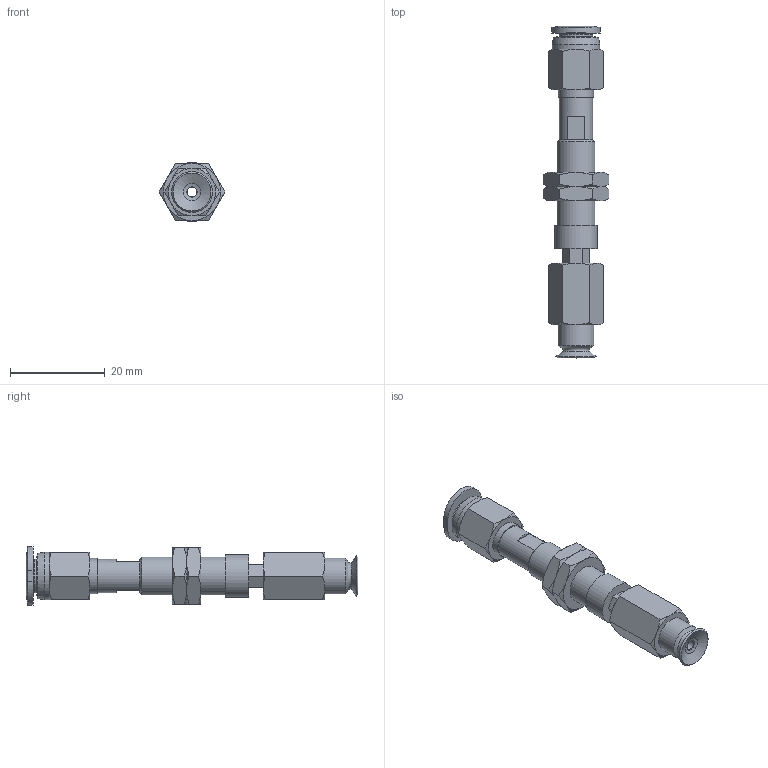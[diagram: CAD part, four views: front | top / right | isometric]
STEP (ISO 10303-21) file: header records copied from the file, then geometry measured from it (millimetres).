
FILE_DESCRIPTION(('STEP AP203'),'1');
FILE_NAME('-O.stp','2025-08-27T02:59:54',(' '),(' '),'Spatial InterOp 3D',' ',' ');
FILE_SCHEMA(('CONFIG_CONTROL_DESIGN'));
Length unit declared in the file: millimetre
Products named in the file (7): BNABPFTH-8A-3-※-O; ADAPTER; NAPATH-10A-3--M; Nut-8A-3-h; NAPFTH-8A-3-FBODY; BPFG-8A-※; PC-C_06-M5
Assembly tree (7 placements, depth 2):
  BNABPFTH-8A-3-※-O
    ADAPTER
    NAPATH-10A-3--M
    Nut-8A-3-h  x2
    NAPFTH-8A-3-FBODY
    BPFG-8A-※
    PC-C_06-M5
Bounding box: 13.86 x 69.98 x 12.4 mm (x, y, z)
Volume: 3272.1 mm3; surface area: 4955.9 mm2
Topology: 6 solids, 9 shells, 174 faces, 368 edges, 223 vertices
Faces by surface type: plane 69, cone 62, cylinder 23, torus 12, bspline 5, revolution 3
Full cylindrical faces by diameter (mm): 2 x3, 4 x4, 4.134 x1, 5 x1, 6 x2, 7 x2, 7.188 x2, 7.4 x1, 7.5 x1, 8 x1, 8.2 x1, 9 x1, 10 x1
Entity records: 4515 total; most frequent: CARTESIAN_POINT 1271, DIRECTION 597, ORIENTED_EDGE 522, EDGE_CURVE 263, AXIS2_PLACEMENT_3D 259, EDGE_LOOP 222, VERTEX_POINT 185, FACE_OUTER_BOUND 124
